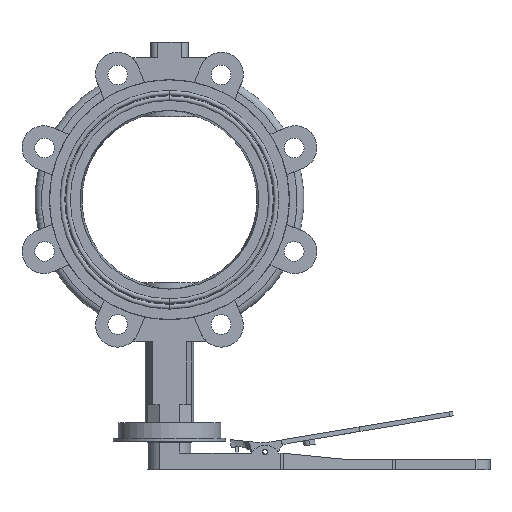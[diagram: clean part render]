
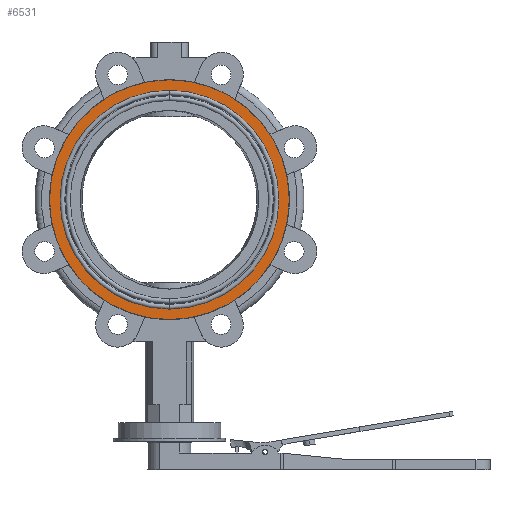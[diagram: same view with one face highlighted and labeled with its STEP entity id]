
A CAD part, front view. The second image highlights one B-rep face of the part: STEP entity #6531.
In plain terms, the highlighted planar face has unit normal (0, -1, 0).
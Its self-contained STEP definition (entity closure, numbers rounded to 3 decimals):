
#221 = AXIS2_PLACEMENT_3D ( 'NONE', #4848, #5095, #11098 ) ;
#252 = CIRCLE ( 'NONE', #11895, 97.165 ) ;
#408 = CARTESIAN_POINT ( 'NONE',  ( 97.165, -28., 0. ) ) ;
#913 = EDGE_LOOP ( 'NONE', ( #6100, #1809 ) ) ;
#1250 = CIRCLE ( 'NONE', #9613, 106.5 ) ;
#1809 = ORIENTED_EDGE ( 'NONE', *, *, #11938, .F. ) ;
#2249 = DIRECTION ( 'NONE',  ( 0., -1., 0. ) ) ;
#2563 = ORIENTED_EDGE ( 'NONE', *, *, #3789, .F. ) ;
#2572 = EDGE_CURVE ( 'NONE', #10360, #12539, #252, .T. ) ;
#2643 = DIRECTION ( 'NONE',  ( 0., 0., -1. ) ) ;
#2784 = FACE_OUTER_BOUND ( 'NONE', #913, .T. ) ;
#3226 = DIRECTION ( 'NONE',  ( 0., -1., 0. ) ) ;
#3789 = EDGE_CURVE ( 'NONE', #12539, #10360, #9802, .T. ) ;
#4641 = CARTESIAN_POINT ( 'NONE',  ( 0., -28., 0. ) ) ;
#4659 = CARTESIAN_POINT ( 'NONE',  ( 0., -28., 0. ) ) ;
#4784 = FACE_BOUND ( 'NONE', #10194, .T. ) ;
#4848 = CARTESIAN_POINT ( 'NONE',  ( 97., -28., 0. ) ) ;
#5095 = DIRECTION ( 'NONE',  ( 0., -1., 0. ) ) ;
#5253 = CARTESIAN_POINT ( 'NONE',  ( -97.165, -28., 0. ) ) ;
#5663 = CARTESIAN_POINT ( 'NONE',  ( 106.5, -28., 0. ) ) ;
#6077 = AXIS2_PLACEMENT_3D ( 'NONE', #4641, #11417, #2643 ) ;
#6100 = ORIENTED_EDGE ( 'NONE', *, *, #8123, .F. ) ;
#6531 = ADVANCED_FACE ( 'NONE', ( #2784, #4784 ), #10664, .T. ) ;
#7191 = DIRECTION ( 'NONE',  ( 0., 0., -1. ) ) ;
#7673 = DIRECTION ( 'NONE',  ( 0., 0., -1. ) ) ;
#8123 = EDGE_CURVE ( 'NONE', #11974, #8292, #11593, .T. ) ;
#8145 = AXIS2_PLACEMENT_3D ( 'NONE', #10965, #3226, #11025 ) ;
#8292 = VERTEX_POINT ( 'NONE', #5663 ) ;
#8919 = CARTESIAN_POINT ( 'NONE',  ( 0., -28., 0. ) ) ;
#9613 = AXIS2_PLACEMENT_3D ( 'NONE', #4659, #10530, #7673 ) ;
#9802 = CIRCLE ( 'NONE', #8145, 97.165 ) ;
#10194 = EDGE_LOOP ( 'NONE', ( #10433, #2563 ) ) ;
#10360 = VERTEX_POINT ( 'NONE', #408 ) ;
#10433 = ORIENTED_EDGE ( 'NONE', *, *, #2572, .F. ) ;
#10530 = DIRECTION ( 'NONE',  ( 0., 1., 0. ) ) ;
#10664 = PLANE ( 'NONE',  #221 ) ;
#10916 = CARTESIAN_POINT ( 'NONE',  ( -106.5, -28., 0. ) ) ;
#10965 = CARTESIAN_POINT ( 'NONE',  ( 0., -28., 0. ) ) ;
#11025 = DIRECTION ( 'NONE',  ( 0., 0., -1. ) ) ;
#11098 = DIRECTION ( 'NONE',  ( 0., 0., -1. ) ) ;
#11417 = DIRECTION ( 'NONE',  ( 0., 1., 0. ) ) ;
#11593 = CIRCLE ( 'NONE', #6077, 106.5 ) ;
#11895 = AXIS2_PLACEMENT_3D ( 'NONE', #8919, #2249, #7191 ) ;
#11938 = EDGE_CURVE ( 'NONE', #8292, #11974, #1250, .T. ) ;
#11974 = VERTEX_POINT ( 'NONE', #10916 ) ;
#12539 = VERTEX_POINT ( 'NONE', #5253 ) ;
